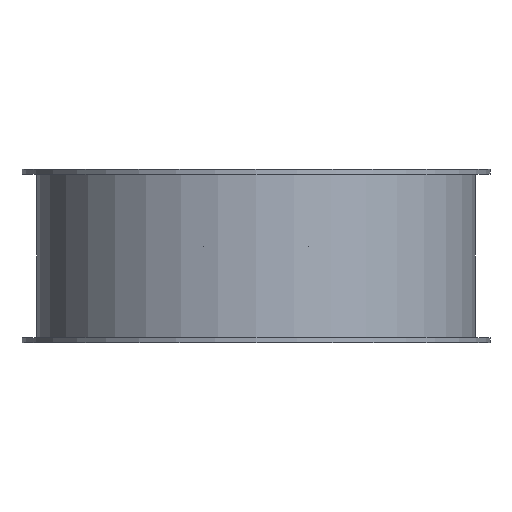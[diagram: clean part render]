
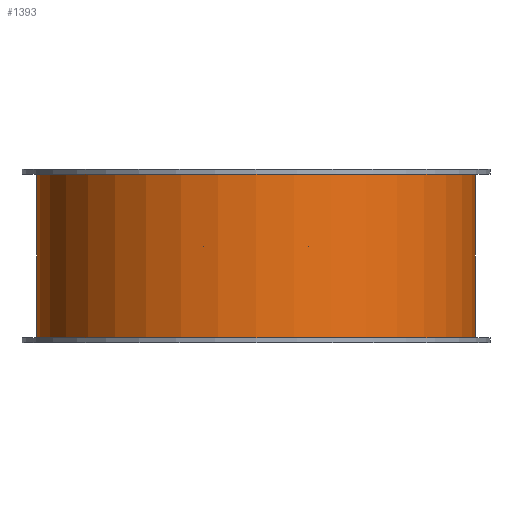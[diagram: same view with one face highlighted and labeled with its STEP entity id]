
A CAD part, left-side view. The second image highlights one B-rep face of the part: STEP entity #1393.
In plain terms, the highlighted cylindrical face has radius 88.5 mm (diameter 177 mm), a full revolution.
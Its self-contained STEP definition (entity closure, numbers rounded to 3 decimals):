
#938=CARTESIAN_POINT('',(-88.5,0.,-33.0));
#939=VERTEX_POINT('',#938);
#940=CARTESIAN_POINT('',(0.0,0.0,-33.0));
#941=DIRECTION('',(0.0,0.0,1.0));
#942=DIRECTION('',(-1.0,0.0,0.0));
#943=AXIS2_PLACEMENT_3D('',#940,#941,#942);
#944=CIRCLE('',#943,88.5);
#945=EDGE_CURVE('',#939,#939,#944,.T.);
#986=CARTESIAN_POINT('',(88.5,0.,33.0));
#987=VERTEX_POINT('',#986);
#988=CARTESIAN_POINT('',(0.0,0.0,33.0));
#989=DIRECTION('',(0.0,0.0,-1.0));
#990=DIRECTION('',(-1.0,0.0,0.0));
#991=AXIS2_PLACEMENT_3D('',#988,#989,#990);
#992=CIRCLE('',#991,88.5);
#993=EDGE_CURVE('',#987,#987,#992,.T.);
#1044=CARTESIAN_POINT('',(86.21,-20.,8.));
#1045=VERTEX_POINT('',#1044);
#1046=CARTESIAN_POINT('',(86.21,20.,8.));
#1047=VERTEX_POINT('',#1046);
#1048=CARTESIAN_POINT('',(0.0,0.0,8.));
#1049=DIRECTION('',(0.0,0.0,1.0));
#1050=DIRECTION('',(-1.0,0.0,0.0));
#1051=AXIS2_PLACEMENT_3D('',#1048,#1049,#1050);
#1052=CIRCLE('',#1051,88.5);
#1053=EDGE_CURVE('',#1045,#1047,#1052,.T.);
#1088=CARTESIAN_POINT('',(84.896,-25.,3.));
#1089=VERTEX_POINT('',#1088);
#1090=CARTESIAN_POINT('',(0.0,0.0,28.));
#1091=DIRECTION('',(0.0,-0.707,0.707));
#1092=DIRECTION('',(0.0,-0.707,-0.707));
#1093=AXIS2_PLACEMENT_3D('',#1090,#1091,#1092);
#1094=ELLIPSE('',#1093,125.158,88.5);
#1095=EDGE_CURVE('',#1089,#1045,#1094,.T.);
#1120=CARTESIAN_POINT('',(84.896,25.,3.));
#1121=VERTEX_POINT('',#1120);
#1122=CARTESIAN_POINT('',(0.0,0.0,28.));
#1123=DIRECTION('',(0.0,0.707,0.707));
#1124=DIRECTION('',(0.0,-0.707,0.707));
#1125=AXIS2_PLACEMENT_3D('',#1122,#1123,#1124);
#1126=ELLIPSE('',#1125,125.158,88.5);
#1127=EDGE_CURVE('',#1047,#1121,#1126,.T.);
#1152=CARTESIAN_POINT('',(0.0,-88.5,3.));
#1153=VERTEX_POINT('',#1152);
#1154=CARTESIAN_POINT('',(0.0,0.0,3.));
#1155=DIRECTION('',(0.0,0.0,1.0));
#1156=DIRECTION('',(-1.0,0.0,0.0));
#1157=AXIS2_PLACEMENT_3D('',#1154,#1155,#1156);
#1158=CIRCLE('',#1157,88.5);
#1159=EDGE_CURVE('',#1153,#1089,#1158,.T.);
#1184=CARTESIAN_POINT('',(0.0,88.5,3.));
#1185=VERTEX_POINT('',#1184);
#1186=CARTESIAN_POINT('',(0.0,0.0,3.));
#1187=DIRECTION('',(0.0,0.0,1.0));
#1188=DIRECTION('',(-1.0,0.0,0.0));
#1189=AXIS2_PLACEMENT_3D('',#1186,#1187,#1188);
#1190=CIRCLE('',#1189,88.5);
#1191=EDGE_CURVE('',#1121,#1185,#1190,.T.);
#1216=CARTESIAN_POINT('',(0.0,88.5,-3.));
#1217=VERTEX_POINT('',#1216);
#1218=CARTESIAN_POINT('',(0.0,-88.5,-3.));
#1219=VERTEX_POINT('',#1218);
#1220=CARTESIAN_POINT('',(0.0,0.0,-3.));
#1221=DIRECTION('',(0.0,0.0,-1.0));
#1222=DIRECTION('',(-1.0,0.0,0.0));
#1223=AXIS2_PLACEMENT_3D('',#1220,#1221,#1222);
#1224=CIRCLE('',#1223,88.5);
#1225=EDGE_CURVE('',#1217,#1219,#1224,.T.);
#1257=CARTESIAN_POINT('',(0.0,88.5,-3.));
#1258=DIRECTION('',(0.0,0.0,1.0));
#1259=VECTOR('',#1258,6.);
#1260=LINE('',#1257,#1259);
#1261=EDGE_CURVE('',#1217,#1185,#1260,.T.);
#1279=CARTESIAN_POINT('',(0.0,-88.5,-3.));
#1280=DIRECTION('',(0.0,0.0,1.0));
#1281=VECTOR('',#1280,6.);
#1282=LINE('',#1279,#1281);
#1283=EDGE_CURVE('',#1219,#1153,#1282,.T.);
#1372=CARTESIAN_POINT('',(0.0,0.0,0.0));
#1373=DIRECTION('',(0.0,0.0,1.0));
#1374=DIRECTION('',(-1.0,0.0,0.0));
#1375=AXIS2_PLACEMENT_3D('',#1372,#1373,#1374);
#1376=CYLINDRICAL_SURFACE('',#1375,88.5);
#1377=ORIENTED_EDGE('',*,*,#945,.T.);
#1378=EDGE_LOOP('',(#1377));
#1379=FACE_OUTER_BOUND('',#1378,.T.);
#1380=ORIENTED_EDGE('',*,*,#993,.T.);
#1381=EDGE_LOOP('',(#1380));
#1382=FACE_BOUND('',#1381,.T.);
#1383=ORIENTED_EDGE('',*,*,#1225,.T.);
#1384=ORIENTED_EDGE('',*,*,#1283,.T.);
#1385=ORIENTED_EDGE('',*,*,#1159,.T.);
#1386=ORIENTED_EDGE('',*,*,#1095,.T.);
#1387=ORIENTED_EDGE('',*,*,#1053,.T.);
#1388=ORIENTED_EDGE('',*,*,#1127,.T.);
#1389=ORIENTED_EDGE('',*,*,#1191,.T.);
#1390=ORIENTED_EDGE('',*,*,#1261,.F.);
#1391=EDGE_LOOP('',(#1383,#1384,#1385,#1386,#1387,#1388,#1389,#1390));
#1392=FACE_BOUND('',#1391,.T.);
#1393=ADVANCED_FACE('',(#1379,#1382,#1392),#1376,.T.);
